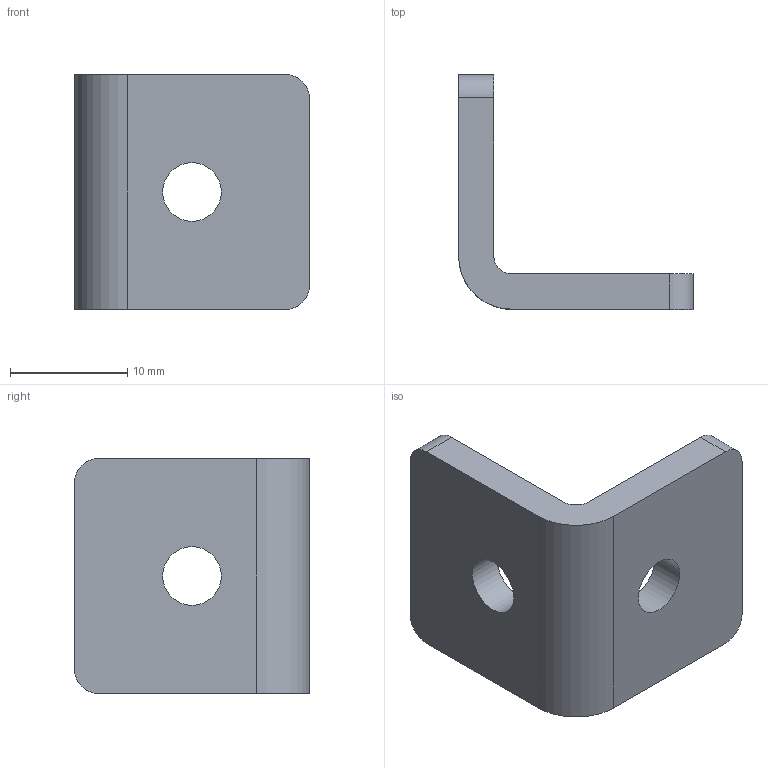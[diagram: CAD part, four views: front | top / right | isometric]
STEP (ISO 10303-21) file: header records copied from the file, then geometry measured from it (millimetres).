
FILE_DESCRIPTION( ( 'STEP AP203' ), '1' );
FILE_NAME( 'C:/Temp/Ganter_Step_05_03_2020/data/3_7/gn_967/gn_967_2/gn_967_2_l/Angle piece GN 967-20-20-L-2-SR.stp', '2020-03-12T14:48:25', ( 'License CC BY-ND 4.0' ), ( 'CADENAS' ), ' ', 'PARTsolutions', ' ' );
FILE_SCHEMA( ( 'CONFIG_CONTROL_DESIGN' ) );
Length unit declared in the file: millimetre
Products named in the file (1): _Angle piece GN 967-20-20-L-2-SR
Bounding box: 20 x 20 x 20 mm (x, y, z)
Volume: 2014.6 mm3; surface area: 1761.3 mm2
Topology: 1 solids, 1 shells, 16 faces, 42 edges, 28 vertices
Faces by surface type: cylinder 8, plane 8
Full cylindrical faces by diameter (mm): 5 x2
Entity records: 544 total; most frequent: DIRECTION 90, CARTESIAN_POINT 85, ORIENTED_EDGE 80, EDGE_CURVE 40, AXIS2_PLACEMENT_3D 33, VERTEX_POINT 28, LINE 24, VECTOR 24
